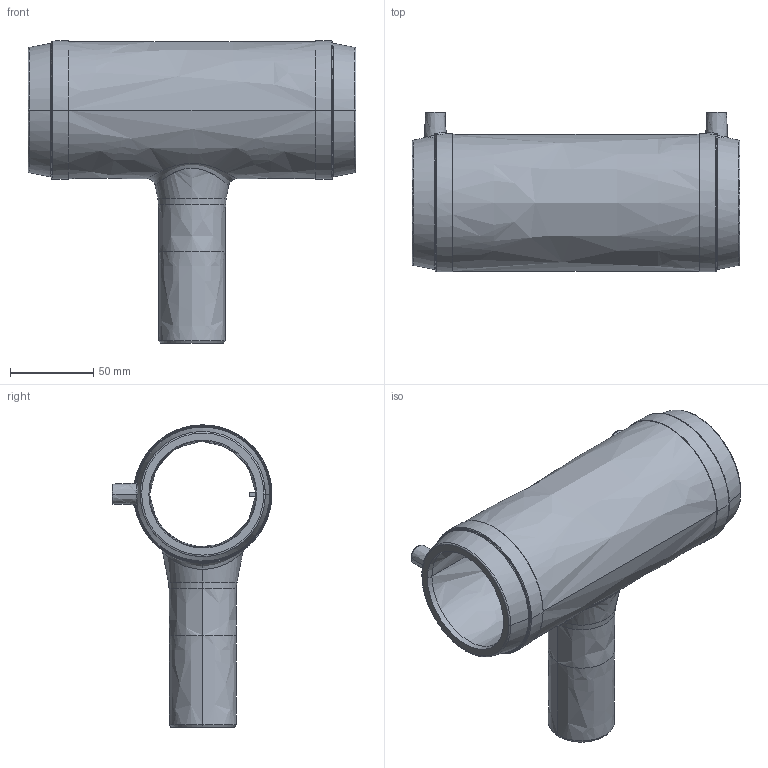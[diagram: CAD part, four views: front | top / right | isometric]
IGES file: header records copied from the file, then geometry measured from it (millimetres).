
Start section:  PTC IGES file: ta_red_d63-40_01.igs
Global section: file name: ta_red_d63-40_01.igs; native system: Pro/ENGINEER by Parametric Technology Corporation; preprocessor: 2011490; author: mtunjic; organization: Unknown; date: 20130812.130059; units: millimetre
Bounding box: 197 x 96 x 181.55 mm (x, y, z)
Surface area: 116702.6 mm2 (no closed solid volume)
Topology: 0 solids, 0 shells, 213 faces, 1050 edges, 1050 vertices
Faces by surface type: bspline 213
